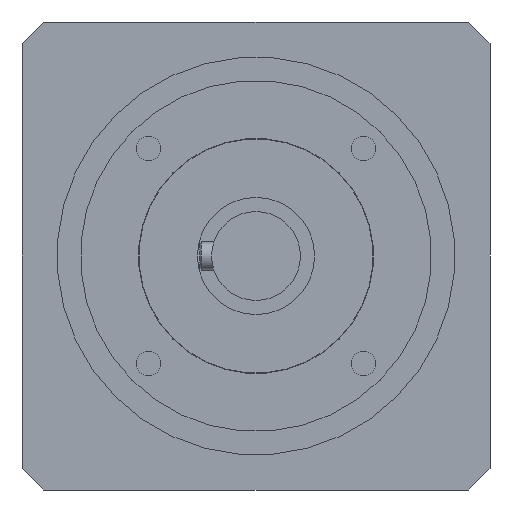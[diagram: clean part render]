
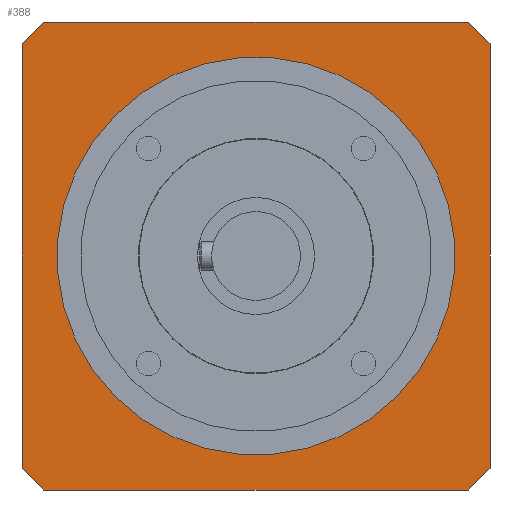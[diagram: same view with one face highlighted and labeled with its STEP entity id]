
A CAD part, left-side view. The second image highlights one B-rep face of the part: STEP entity #388.
In plain terms, the highlighted planar face has unit normal (-1, 0, 0).
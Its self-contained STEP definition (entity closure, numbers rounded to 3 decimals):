
#118=LINE('',#2225,#176);
#119=LINE('',#2229,#177);
#120=LINE('',#2233,#178);
#121=LINE('',#2237,#179);
#176=VECTOR('',#1839,1.);
#177=VECTOR('',#1842,1.);
#178=VECTOR('',#1845,1.);
#179=VECTOR('',#1848,1.);
#312=FACE_OUTER_BOUND('',#704,.T.);
#388=ADVANCED_FACE('',(#312),#456,.T.);
#456=PLANE('',#1530);
#704=EDGE_LOOP('',(#910,#911,#912,#913,#914,#915,#916,#917));
#910=ORIENTED_EDGE('',*,*,#1258,.F.);
#911=ORIENTED_EDGE('',*,*,#1259,.F.);
#912=ORIENTED_EDGE('',*,*,#1260,.F.);
#913=ORIENTED_EDGE('',*,*,#1261,.F.);
#914=ORIENTED_EDGE('',*,*,#1262,.F.);
#915=ORIENTED_EDGE('',*,*,#1263,.F.);
#916=ORIENTED_EDGE('',*,*,#1264,.F.);
#917=ORIENTED_EDGE('',*,*,#1265,.F.);
#1126=VERTEX_POINT('',#2223);
#1127=VERTEX_POINT('',#2224);
#1128=VERTEX_POINT('',#2226);
#1129=VERTEX_POINT('',#2228);
#1130=VERTEX_POINT('',#2230);
#1131=VERTEX_POINT('',#2232);
#1132=VERTEX_POINT('',#2234);
#1133=VERTEX_POINT('',#2236);
#1258=EDGE_CURVE('',#1126,#1127,#1384,.T.);
#1259=EDGE_CURVE('',#1128,#1126,#118,.T.);
#1260=EDGE_CURVE('',#1129,#1128,#1385,.T.);
#1261=EDGE_CURVE('',#1130,#1129,#119,.T.);
#1262=EDGE_CURVE('',#1131,#1130,#1386,.T.);
#1263=EDGE_CURVE('',#1132,#1131,#120,.T.);
#1264=EDGE_CURVE('',#1133,#1132,#1387,.T.);
#1265=EDGE_CURVE('',#1127,#1133,#121,.T.);
#1384=CIRCLE('',#1526,67.5);
#1385=CIRCLE('',#1527,67.5);
#1386=CIRCLE('',#1528,67.5);
#1387=CIRCLE('',#1529,67.5);
#1526=AXIS2_PLACEMENT_3D('',#2222,#1837,#1838);
#1527=AXIS2_PLACEMENT_3D('',#2227,#1840,#1841);
#1528=AXIS2_PLACEMENT_3D('',#2231,#1843,#1844);
#1529=AXIS2_PLACEMENT_3D('',#2235,#1846,#1847);
#1530=AXIS2_PLACEMENT_3D('',#2238,#1849,#1850);
#1837=DIRECTION('',(1.,0.,0.));
#1838=DIRECTION('',(0.,1.,0.));
#1839=DIRECTION('',(0.,0.,1.));
#1840=DIRECTION('',(1.,0.,0.));
#1841=DIRECTION('',(0.,0.,-1.));
#1842=DIRECTION('',(0.,1.,0.));
#1843=DIRECTION('',(1.,0.,0.));
#1844=DIRECTION('',(0.,-1.,0.));
#1845=DIRECTION('',(0.,0.,-1.));
#1846=DIRECTION('',(1.,0.,0.));
#1847=DIRECTION('',(0.,0.,1.));
#1848=DIRECTION('',(0.,-1.,0.));
#1849=DIRECTION('',(-1.,0.,0.));
#1850=DIRECTION('',(0.,0.,-1.));
#2222=CARTESIAN_POINT('',(0.,0.,0.));
#2223=CARTESIAN_POINT('',(0.,50.,45.346));
#2224=CARTESIAN_POINT('',(0.,45.346,50.));
#2225=CARTESIAN_POINT('',(0.,50.,0.));
#2226=CARTESIAN_POINT('',(0.,50.,-45.346));
#2227=CARTESIAN_POINT('',(0.,0.,0.));
#2228=CARTESIAN_POINT('',(0.,45.346,-50.));
#2229=CARTESIAN_POINT('',(0.,0.,-50.));
#2230=CARTESIAN_POINT('',(0.,-45.346,-50.));
#2231=CARTESIAN_POINT('',(0.,0.,0.));
#2232=CARTESIAN_POINT('',(0.,-50.,-45.346));
#2233=CARTESIAN_POINT('',(0.,-50.,0.));
#2234=CARTESIAN_POINT('',(0.,-50.,45.346));
#2235=CARTESIAN_POINT('',(0.,0.,0.));
#2236=CARTESIAN_POINT('',(0.,-45.346,50.));
#2237=CARTESIAN_POINT('',(0.,0.,50.));
#2238=CARTESIAN_POINT('',(0.,0.,0.));
